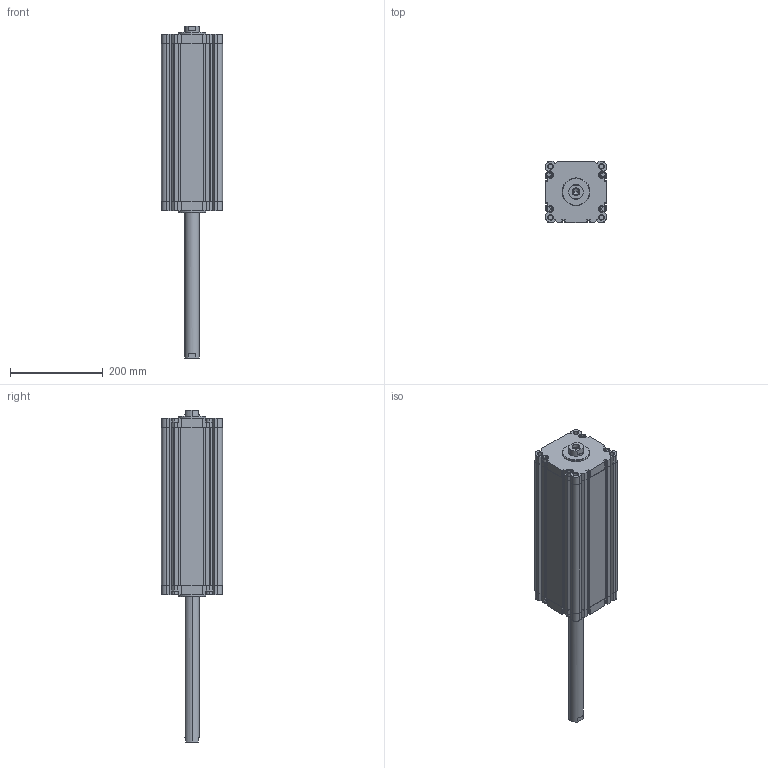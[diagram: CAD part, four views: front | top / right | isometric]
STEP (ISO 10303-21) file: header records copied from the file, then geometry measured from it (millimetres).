
FILE_DESCRIPTION (( 'STEP AP203' ), '1' );
FILE_NAME ('CDVU125-300F-P.STEP', '2020-07-24T18:46:17', ( '' ), ( '' ), 'SwSTEP 2.0', 'SolidWorks 2019', '' );
FILE_SCHEMA (( 'CONFIG_CONTROL_DESIGN' ));
Length unit declared in the file: millimetre
Products named in the file (1): CDVU125-300F-P
Bounding box: 132 x 132 x 717 mm (x, y, z)
Volume: 3253943.6 mm3; surface area: 528951.6 mm2
Topology: 2 solids, 2 shells, 666 faces, 1816 edges, 1184 vertices
Faces by surface type: plane 322, cylinder 276, cone 52, torus 16
Entity records: 21155 total; most frequent: DIRECTION 3778, CARTESIAN_POINT 3659, ORIENTED_EDGE 3616, EDGE_CURVE 1808, AXIS2_PLACEMENT_3D 1303, VERTEX_POINT 1184, VECTOR 1172, LINE 1172
